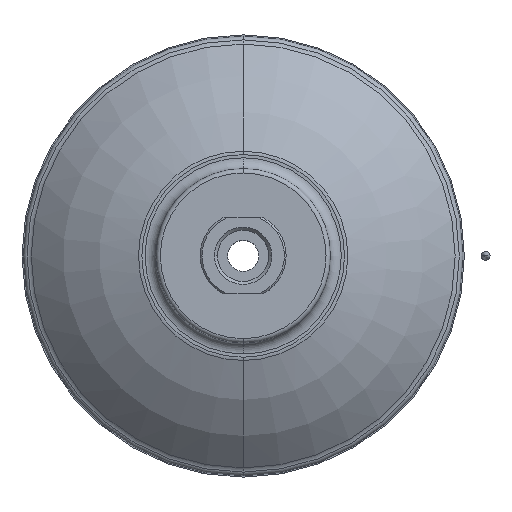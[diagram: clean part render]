
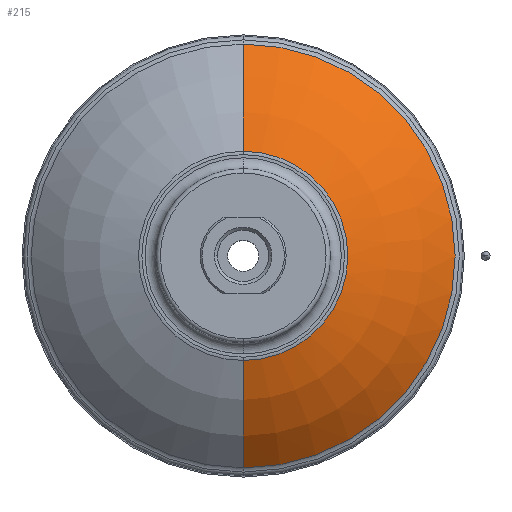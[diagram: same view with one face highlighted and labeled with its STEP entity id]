
A CAD part, top view. The second image highlights one B-rep face of the part: STEP entity #215.
In plain terms, the highlighted toroidal (fillet/blend) face has major radius 10.563 mm and minor radius 71.305 mm.
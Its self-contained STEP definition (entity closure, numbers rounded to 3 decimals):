
#215=ADVANCED_FACE('',(#507),#508,.T.);
#507=FACE_OUTER_BOUND('',#885,.T.);
#508=TOROIDAL_SURFACE('',#886,10.563,71.305);
#885=EDGE_LOOP('',(#1461,#1462,#1463,#1464));
#886=AXIS2_PLACEMENT_3D('',#1465,#1466,#1467);
#1461=ORIENTED_EDGE('',*,*,#2377,.F.);
#1462=ORIENTED_EDGE('',*,*,#2378,.T.);
#1463=ORIENTED_EDGE('',*,*,#2379,.F.);
#1464=ORIENTED_EDGE('',*,*,#2380,.F.);
#1465=CARTESIAN_POINT('',(0.0,0.,-46.032));
#1466=DIRECTION('',(0.0,0.,-1.0));
#1467=DIRECTION('',(0.0,1.0,0.));
#2377=EDGE_CURVE('',#2888,#2883,#2889,.T.);
#2378=EDGE_CURVE('',#2888,#2890,#2891,.T.);
#2379=EDGE_CURVE('',#2881,#2890,#2892,.T.);
#2380=EDGE_CURVE('',#2883,#2881,#2893,.T.);
#2881=VERTEX_POINT('',#3505);
#2883=VERTEX_POINT('',#3507);
#2888=VERTEX_POINT('',#3512);
#2889=CIRCLE('',#3513,71.305);
#2890=VERTEX_POINT('',#3514);
#2891=CIRCLE('',#3515,30.458);
#2892=CIRCLE('',#3516,71.305);
#2893=CIRCLE('',#3517,61.691);
#3505=CARTESIAN_POINT('',(0.,-61.691,3.671));
#3507=CARTESIAN_POINT('',(0.,61.691,3.671));
#3512=CARTESIAN_POINT('',(0.,30.458,22.442));
#3513=AXIS2_PLACEMENT_3D('',#4232,#4233,#4234);
#3514=CARTESIAN_POINT('',(0.,-30.458,22.442));
#3515=AXIS2_PLACEMENT_3D('',#4235,#4236,#4237);
#3516=AXIS2_PLACEMENT_3D('',#4238,#4239,#4240);
#3517=AXIS2_PLACEMENT_3D('',#4241,#4242,#4243);
#4232=CARTESIAN_POINT('',(0.,10.563,-46.032));
#4233=DIRECTION('',(-1.0,0.,0.));
#4234=DIRECTION('',(0.,1.0,0.));
#4235=CARTESIAN_POINT('',(0.0,0.,22.442));
#4236=DIRECTION('',(0.0,0.,-1.0));
#4237=DIRECTION('',(1.0,0.0,0.0));
#4238=CARTESIAN_POINT('',(0.,-10.563,-46.032));
#4239=DIRECTION('',(-1.0,0.,0.));
#4240=DIRECTION('',(0.,-1.0,0.));
#4241=CARTESIAN_POINT('',(0.0,0.,3.671));
#4242=DIRECTION('',(0.0,0.,-1.0));
#4243=DIRECTION('',(1.0,0.0,0.0));
